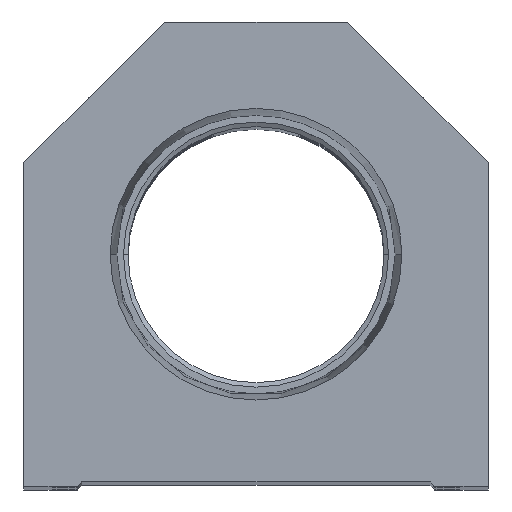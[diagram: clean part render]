
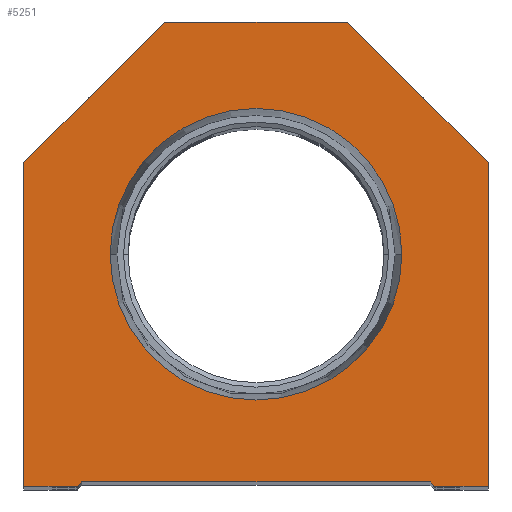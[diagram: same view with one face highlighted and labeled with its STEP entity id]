
A CAD part, top view. The second image highlights one B-rep face of the part: STEP entity #5251.
In plain terms, the highlighted planar face has unit normal (0, 0, 1).
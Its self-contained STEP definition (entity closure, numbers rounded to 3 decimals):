
#5 = CARTESIAN_POINT ( 'NONE',  ( 0., 25.4, 0. ) ) ;
#152 = LINE ( 'NONE', #6024, #11851 ) ;
#246 = VECTOR ( 'NONE', #1233, 1000. ) ;
#290 = CARTESIAN_POINT ( 'NONE',  ( 0., 25.4, 0. ) ) ;
#462 = EDGE_CURVE ( 'NONE', #17923, #10243, #3526, .T. ) ;
#501 = LINE ( 'NONE', #16662, #10822 ) ;
#735 = PLANE ( 'NONE',  #3045 ) ;
#919 = VERTEX_POINT ( 'NONE', #12716 ) ;
#1233 = DIRECTION ( 'NONE',  ( 1., 0., 0. ) ) ;
#1355 = EDGE_CURVE ( 'NONE', #3905, #8642, #11703, .T. ) ;
#1579 = CARTESIAN_POINT ( 'NONE',  ( -25.4, 0., 0. ) ) ;
#2091 = DIRECTION ( 'NONE',  ( 0.707, 0.707, 0. ) ) ;
#2272 = VERTEX_POINT ( 'NONE', #11900 ) ;
#2441 = DIRECTION ( 'NONE',  ( -0.707, -0.707, 0. ) ) ;
#2561 = EDGE_CURVE ( 'NONE', #919, #3662, #11854, .T. ) ;
#2630 = LINE ( 'NONE', #11383, #9420 ) ;
#2828 = VERTEX_POINT ( 'NONE', #18128 ) ;
#2862 = DIRECTION ( 'NONE',  ( 1., 0., 0. ) ) ;
#2995 = ORIENTED_EDGE ( 'NONE', *, *, #12588, .T. ) ;
#3014 = VECTOR ( 'NONE', #17496, 1000. ) ;
#3045 = AXIS2_PLACEMENT_3D ( 'NONE', #3915, #3715, #12371 ) ;
#3526 = LINE ( 'NONE', #15244, #8737 ) ;
#3568 = LINE ( 'NONE', #12408, #13762 ) ;
#3640 = CARTESIAN_POINT ( 'NONE',  ( 25.4, 0., 0. ) ) ;
#3662 = VERTEX_POINT ( 'NONE', #16049 ) ;
#3715 = DIRECTION ( 'NONE',  ( 0., 0., 1. ) ) ;
#3727 = EDGE_CURVE ( 'NONE', #2272, #16901, #12689, .T. ) ;
#3905 = VERTEX_POINT ( 'NONE', #3640 ) ;
#3915 = CARTESIAN_POINT ( 'NONE',  ( 0., 0., 0. ) ) ;
#4217 = ORIENTED_EDGE ( 'NONE', *, *, #2561, .T. ) ;
#4310 = CARTESIAN_POINT ( 'NONE',  ( 25.4, 35.4, 0. ) ) ;
#4995 = EDGE_LOOP ( 'NONE', ( #16123, #17235, #8655, #6402, #17473, #11092, #2995, #11300, #11863, #4217 ) ) ;
#5251 = ADVANCED_FACE ( 'NONE', ( #15346, #18385 ), #735, .T. ) ;
#5433 = CARTESIAN_POINT ( 'NONE',  ( -25.4, 35.4, 0. ) ) ;
#5562 = CARTESIAN_POINT ( 'NONE',  ( -19.55, 0., 0. ) ) ;
#5872 = DIRECTION ( 'NONE',  ( 0., 0., 1. ) ) ;
#6024 = CARTESIAN_POINT ( 'NONE',  ( 9.775, 9.775, 0. ) ) ;
#6370 = DIRECTION ( 'NONE',  ( -0.707, 0.707, 0. ) ) ;
#6402 = ORIENTED_EDGE ( 'NONE', *, *, #10919, .T. ) ;
#6721 = VECTOR ( 'NONE', #2441, 1000. ) ;
#7117 = DIRECTION ( 'NONE',  ( 0., 1., 0. ) ) ;
#7210 = DIRECTION ( 'NONE',  ( 0., 0., 1. ) ) ;
#7709 = VERTEX_POINT ( 'NONE', #11354 ) ;
#8119 = LINE ( 'NONE', #5433, #6721 ) ;
#8234 = CARTESIAN_POINT ( 'NONE',  ( -19.05, 0.5, 0. ) ) ;
#8642 = VERTEX_POINT ( 'NONE', #4310 ) ;
#8655 = ORIENTED_EDGE ( 'NONE', *, *, #17845, .T. ) ;
#8737 = VECTOR ( 'NONE', #2091, 1000. ) ;
#9091 = DIRECTION ( 'NONE',  ( 1., 0., 0. ) ) ;
#9420 = VECTOR ( 'NONE', #11093, 1000. ) ;
#9675 = CIRCLE ( 'NONE', #16093, 15.947 ) ;
#10243 = VERTEX_POINT ( 'NONE', #8234 ) ;
#10822 = VECTOR ( 'NONE', #6370, 1000. ) ;
#10848 = CARTESIAN_POINT ( 'NONE',  ( -10., 50.8, 0. ) ) ;
#10900 = ORIENTED_EDGE ( 'NONE', *, *, #3727, .F. ) ;
#10919 = EDGE_CURVE ( 'NONE', #2828, #15557, #152, .T. ) ;
#11092 = ORIENTED_EDGE ( 'NONE', *, *, #1355, .T. ) ;
#11093 = DIRECTION ( 'NONE',  ( -1., 0., 0. ) ) ;
#11109 = CARTESIAN_POINT ( 'NONE',  ( -19.05, 0.5, 0. ) ) ;
#11111 = EDGE_CURVE ( 'NONE', #7709, #12973, #2630, .T. ) ;
#11300 = ORIENTED_EDGE ( 'NONE', *, *, #11111, .T. ) ;
#11354 = CARTESIAN_POINT ( 'NONE',  ( 10., 50.8, 0. ) ) ;
#11383 = CARTESIAN_POINT ( 'NONE',  ( 10., 50.8, 0. ) ) ;
#11703 = LINE ( 'NONE', #17334, #11954 ) ;
#11851 = VECTOR ( 'NONE', #17792, 1000. ) ;
#11854 = LINE ( 'NONE', #1579, #3014 ) ;
#11863 = ORIENTED_EDGE ( 'NONE', *, *, #15192, .T. ) ;
#11900 = CARTESIAN_POINT ( 'NONE',  ( -15.947, 25.4, 0. ) ) ;
#11954 = VECTOR ( 'NONE', #7117, 1000. ) ;
#12371 = DIRECTION ( 'NONE',  ( 1., 0., 0. ) ) ;
#12408 = CARTESIAN_POINT ( 'NONE',  ( -19.05, 0., 0. ) ) ;
#12588 = EDGE_CURVE ( 'NONE', #8642, #7709, #501, .T. ) ;
#12689 = CIRCLE ( 'NONE', #18860, 15.947 ) ;
#12716 = CARTESIAN_POINT ( 'NONE',  ( -25.4, 35.4, 0. ) ) ;
#12973 = VERTEX_POINT ( 'NONE', #10848 ) ;
#13419 = CARTESIAN_POINT ( 'NONE',  ( 15.947, 25.4, 0. ) ) ;
#13762 = VECTOR ( 'NONE', #14050, 1000. ) ;
#13933 = EDGE_CURVE ( 'NONE', #16901, #2272, #9675, .T. ) ;
#14050 = DIRECTION ( 'NONE',  ( 1., 0., 0. ) ) ;
#14057 = VECTOR ( 'NONE', #9091, 1000. ) ;
#14397 = LINE ( 'NONE', #11109, #246 ) ;
#14756 = ORIENTED_EDGE ( 'NONE', *, *, #13933, .F. ) ;
#15026 = EDGE_CURVE ( 'NONE', #15557, #3905, #16684, .T. ) ;
#15192 = EDGE_CURVE ( 'NONE', #12973, #919, #8119, .T. ) ;
#15244 = CARTESIAN_POINT ( 'NONE',  ( -9.775, 9.775, 0. ) ) ;
#15346 = FACE_BOUND ( 'NONE', #17536, .T. ) ;
#15553 = EDGE_CURVE ( 'NONE', #3662, #17923, #3568, .T. ) ;
#15557 = VERTEX_POINT ( 'NONE', #17157 ) ;
#16049 = CARTESIAN_POINT ( 'NONE',  ( -25.4, 0., 0. ) ) ;
#16093 = AXIS2_PLACEMENT_3D ( 'NONE', #290, #7210, #2862 ) ;
#16123 = ORIENTED_EDGE ( 'NONE', *, *, #15553, .T. ) ;
#16662 = CARTESIAN_POINT ( 'NONE',  ( 25.4, 35.4, 0. ) ) ;
#16684 = LINE ( 'NONE', #18158, #14057 ) ;
#16901 = VERTEX_POINT ( 'NONE', #13419 ) ;
#17157 = CARTESIAN_POINT ( 'NONE',  ( 19.55, 0., 0. ) ) ;
#17235 = ORIENTED_EDGE ( 'NONE', *, *, #462, .T. ) ;
#17334 = CARTESIAN_POINT ( 'NONE',  ( 25.4, 0., 0. ) ) ;
#17473 = ORIENTED_EDGE ( 'NONE', *, *, #15026, .T. ) ;
#17496 = DIRECTION ( 'NONE',  ( 0., -1., 0. ) ) ;
#17536 = EDGE_LOOP ( 'NONE', ( #14756, #10900 ) ) ;
#17629 = DIRECTION ( 'NONE',  ( 1., 0., 0. ) ) ;
#17792 = DIRECTION ( 'NONE',  ( 0.707, -0.707, 0. ) ) ;
#17845 = EDGE_CURVE ( 'NONE', #10243, #2828, #14397, .T. ) ;
#17923 = VERTEX_POINT ( 'NONE', #5562 ) ;
#18128 = CARTESIAN_POINT ( 'NONE',  ( 19.05, 0.5, 0. ) ) ;
#18158 = CARTESIAN_POINT ( 'NONE',  ( 19.05, 0., 0. ) ) ;
#18385 = FACE_OUTER_BOUND ( 'NONE', #4995, .T. ) ;
#18860 = AXIS2_PLACEMENT_3D ( 'NONE', #5, #5872, #17629 ) ;
